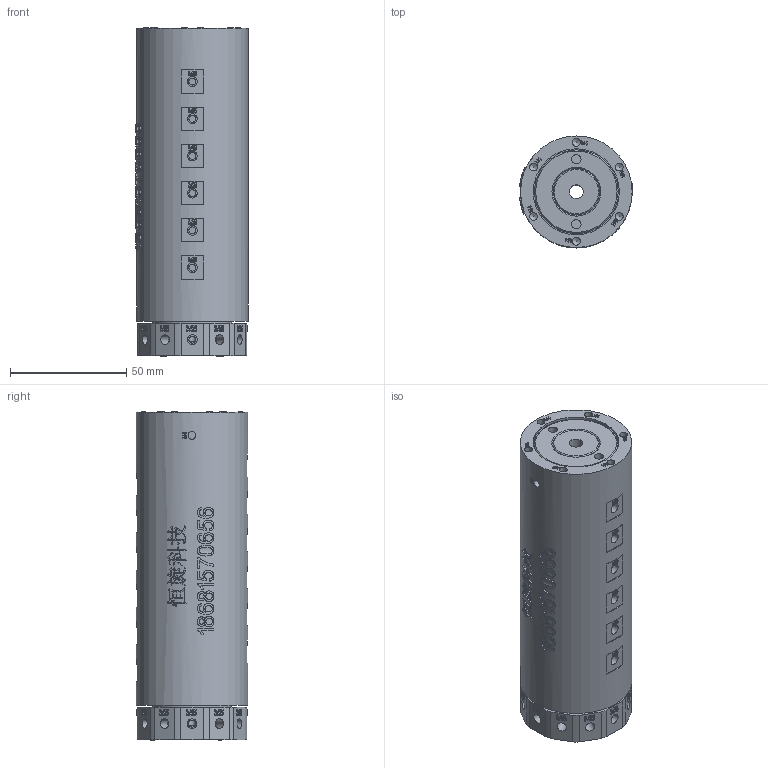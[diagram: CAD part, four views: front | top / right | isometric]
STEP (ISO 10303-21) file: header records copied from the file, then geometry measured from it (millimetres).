
FILE_DESCRIPTION(/* description */ (''),/* implementation_level */ '2;1');
FILE_NAME(/* name */ 'HQ12005-3D模型.stp',/* time_stamp */ '2025-09-05T17:29:10+08:00',/* author */ (''),/* organization */ (''),/* preprocessor_version */ 'ST-DEVELOPER v16.7',/* originating_system */ 'SIEMENS PLM Software NX 12.0',/* authorisation */ '');
FILE_SCHEMA (('AUTOMOTIVE_DESIGN { 1 0 10303 214 3 1 1 1 }'));
Products named in the file (1): AdmiE6DC186D3rtk
Bounding box: 48.48 x 48 x 141.4 mm (x, y, z)
Volume: 244275.8 mm3; surface area: 36859.7 mm2
Topology: 1 solids, 1 shells, 2131 faces, 5844 edges, 3892 vertices
Faces by surface type: plane 1126, extrusion 743, cylinder 151, bspline 98, cone 13
Full cylindrical faces by diameter (mm): 3 x36, 3.4 x12, 4 x2, 4.1 x12, 4.2 x36, 6 x1, 34 x1, 37 x1, 48 x1
Entity records: 77030 total; most frequent: CARTESIAN_POINT 30542, ORIENTED_EDGE 11266, DIRECTION 5973, EDGE_CURVE 5633, B_SPLINE_CURVE_WITH_KNOTS 4147, VERTEX_POINT 3819, VECTOR 2529, EDGE_LOOP 2438
